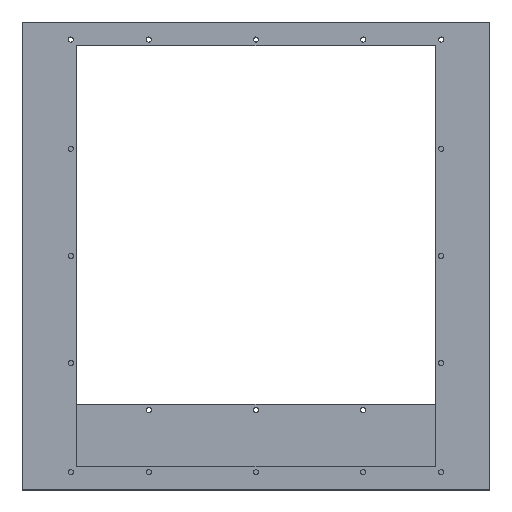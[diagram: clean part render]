
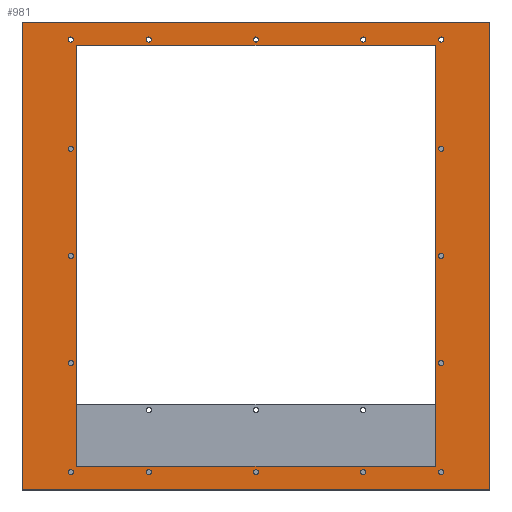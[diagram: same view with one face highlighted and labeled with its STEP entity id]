
A CAD part, top view. The second image highlights one B-rep face of the part: STEP entity #981.
In plain terms, the highlighted planar face has unit normal (0, 0, 1).
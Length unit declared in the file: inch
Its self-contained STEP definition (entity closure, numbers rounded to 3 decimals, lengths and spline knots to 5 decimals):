
#39=VECTOR('',#1232,1.);
#41=VECTOR('',#1235,1.);
#42=VECTOR('',#1236,1.);
#43=VECTOR('',#1237,1.);
#44=VECTOR('',#1238,1.);
#45=VECTOR('',#1239,1.);
#46=VECTOR('',#1240,1.);
#47=VECTOR('',#1241,1.);
#85=LINE('',#1480,#39);
#87=LINE('',#1484,#41);
#88=LINE('',#1487,#42);
#89=LINE('',#1489,#43);
#90=LINE('',#1491,#44);
#91=LINE('',#1492,#45);
#92=LINE('',#1494,#46);
#93=LINE('',#1496,#47);
#130=PLANE('',#1066);
#147=VERTEX_POINT('',#1398);
#149=VERTEX_POINT('',#1403);
#151=VERTEX_POINT('',#1408);
#153=VERTEX_POINT('',#1413);
#155=VERTEX_POINT('',#1418);
#157=VERTEX_POINT('',#1423);
#159=VERTEX_POINT('',#1428);
#161=VERTEX_POINT('',#1433);
#163=VERTEX_POINT('',#1438);
#165=VERTEX_POINT('',#1443);
#167=VERTEX_POINT('',#1448);
#169=VERTEX_POINT('',#1453);
#171=VERTEX_POINT('',#1458);
#173=VERTEX_POINT('',#1463);
#175=VERTEX_POINT('',#1468);
#177=VERTEX_POINT('',#1473);
#180=VERTEX_POINT('',#1479);
#181=VERTEX_POINT('',#1481);
#182=VERTEX_POINT('',#1485);
#183=VERTEX_POINT('',#1486);
#184=VERTEX_POINT('',#1488);
#185=VERTEX_POINT('',#1490);
#186=VERTEX_POINT('',#1493);
#187=VERTEX_POINT('',#1495);
#245=CIRCLE('',#1019,0.082);
#247=CIRCLE('',#1022,0.082);
#249=CIRCLE('',#1025,0.082);
#251=CIRCLE('',#1028,0.082);
#253=CIRCLE('',#1031,0.082);
#255=CIRCLE('',#1034,0.082);
#257=CIRCLE('',#1037,0.082);
#259=CIRCLE('',#1040,0.082);
#261=CIRCLE('',#1043,0.082);
#263=CIRCLE('',#1046,0.082);
#265=CIRCLE('',#1049,0.082);
#267=CIRCLE('',#1052,0.082);
#269=CIRCLE('',#1055,0.082);
#271=CIRCLE('',#1058,0.082);
#273=CIRCLE('',#1061,0.082);
#275=CIRCLE('',#1064,0.082);
#311=EDGE_CURVE('',#147,#147,#245,.T.);
#313=EDGE_CURVE('',#149,#149,#247,.T.);
#315=EDGE_CURVE('',#151,#151,#249,.T.);
#317=EDGE_CURVE('',#153,#153,#251,.T.);
#319=EDGE_CURVE('',#155,#155,#253,.T.);
#321=EDGE_CURVE('',#157,#157,#255,.T.);
#323=EDGE_CURVE('',#159,#159,#257,.T.);
#325=EDGE_CURVE('',#161,#161,#259,.T.);
#327=EDGE_CURVE('',#163,#163,#261,.T.);
#329=EDGE_CURVE('',#165,#165,#263,.T.);
#331=EDGE_CURVE('',#167,#167,#265,.T.);
#333=EDGE_CURVE('',#169,#169,#267,.T.);
#335=EDGE_CURVE('',#171,#171,#269,.T.);
#337=EDGE_CURVE('',#173,#173,#271,.T.);
#339=EDGE_CURVE('',#175,#175,#273,.T.);
#341=EDGE_CURVE('',#177,#177,#275,.T.);
#344=EDGE_CURVE('',#181,#180,#85,.T.);
#346=EDGE_CURVE('',#182,#183,#87,.T.);
#347=EDGE_CURVE('',#184,#182,#88,.T.);
#348=EDGE_CURVE('',#185,#184,#89,.T.);
#349=EDGE_CURVE('',#183,#185,#90,.T.);
#350=EDGE_CURVE('',#186,#181,#91,.T.);
#351=EDGE_CURVE('',#180,#187,#92,.T.);
#352=EDGE_CURVE('',#187,#186,#93,.T.);
#460=ORIENTED_EDGE('',*,*,#311,.T.);
#461=ORIENTED_EDGE('',*,*,#313,.T.);
#462=ORIENTED_EDGE('',*,*,#315,.T.);
#463=ORIENTED_EDGE('',*,*,#317,.T.);
#464=ORIENTED_EDGE('',*,*,#319,.T.);
#465=ORIENTED_EDGE('',*,*,#321,.T.);
#466=ORIENTED_EDGE('',*,*,#323,.T.);
#467=ORIENTED_EDGE('',*,*,#325,.T.);
#468=ORIENTED_EDGE('',*,*,#327,.T.);
#469=ORIENTED_EDGE('',*,*,#329,.T.);
#470=ORIENTED_EDGE('',*,*,#331,.T.);
#471=ORIENTED_EDGE('',*,*,#333,.T.);
#472=ORIENTED_EDGE('',*,*,#335,.T.);
#473=ORIENTED_EDGE('',*,*,#337,.T.);
#474=ORIENTED_EDGE('',*,*,#339,.T.);
#475=ORIENTED_EDGE('',*,*,#341,.T.);
#476=ORIENTED_EDGE('',*,*,#346,.F.);
#477=ORIENTED_EDGE('',*,*,#347,.F.);
#478=ORIENTED_EDGE('',*,*,#348,.F.);
#479=ORIENTED_EDGE('',*,*,#349,.F.);
#480=ORIENTED_EDGE('',*,*,#350,.T.);
#481=ORIENTED_EDGE('',*,*,#344,.T.);
#482=ORIENTED_EDGE('',*,*,#351,.T.);
#483=ORIENTED_EDGE('',*,*,#352,.T.);
#685=EDGE_LOOP('',(#460));
#686=EDGE_LOOP('',(#461));
#687=EDGE_LOOP('',(#462));
#688=EDGE_LOOP('',(#463));
#689=EDGE_LOOP('',(#464));
#690=EDGE_LOOP('',(#465));
#691=EDGE_LOOP('',(#466));
#692=EDGE_LOOP('',(#467));
#693=EDGE_LOOP('',(#468));
#694=EDGE_LOOP('',(#469));
#695=EDGE_LOOP('',(#470));
#696=EDGE_LOOP('',(#471));
#697=EDGE_LOOP('',(#472));
#698=EDGE_LOOP('',(#473));
#699=EDGE_LOOP('',(#474));
#700=EDGE_LOOP('',(#475));
#701=EDGE_LOOP('',(#476,#477,#478,#479));
#702=EDGE_LOOP('',(#480,#481,#482,#483));
#841=FACE_BOUND('',#685,.T.);
#842=FACE_BOUND('',#686,.T.);
#843=FACE_BOUND('',#687,.T.);
#844=FACE_BOUND('',#688,.T.);
#845=FACE_BOUND('',#689,.T.);
#846=FACE_BOUND('',#690,.T.);
#847=FACE_BOUND('',#691,.T.);
#848=FACE_BOUND('',#692,.T.);
#849=FACE_BOUND('',#693,.T.);
#850=FACE_BOUND('',#694,.T.);
#851=FACE_BOUND('',#695,.T.);
#852=FACE_BOUND('',#696,.T.);
#853=FACE_BOUND('',#697,.T.);
#854=FACE_BOUND('',#698,.T.);
#855=FACE_BOUND('',#699,.T.);
#856=FACE_BOUND('',#700,.T.);
#857=FACE_BOUND('',#701,.T.);
#858=FACE_BOUND('',#702,.T.);
#981=ADVANCED_FACE('',(#841,#842,#843,#844,#845,#846,#847,#848,#849,#850,
#851,#852,#853,#854,#855,#856,#857,#858),#130,.T.);
#1019=AXIS2_PLACEMENT_3D('',#1397,#1137,#1138);
#1022=AXIS2_PLACEMENT_3D('',#1402,#1143,#1144);
#1025=AXIS2_PLACEMENT_3D('',#1407,#1149,#1150);
#1028=AXIS2_PLACEMENT_3D('',#1412,#1155,#1156);
#1031=AXIS2_PLACEMENT_3D('',#1417,#1161,#1162);
#1034=AXIS2_PLACEMENT_3D('',#1422,#1167,#1168);
#1037=AXIS2_PLACEMENT_3D('',#1427,#1173,#1174);
#1040=AXIS2_PLACEMENT_3D('',#1432,#1179,#1180);
#1043=AXIS2_PLACEMENT_3D('',#1437,#1185,#1186);
#1046=AXIS2_PLACEMENT_3D('',#1442,#1191,#1192);
#1049=AXIS2_PLACEMENT_3D('',#1447,#1197,#1198);
#1052=AXIS2_PLACEMENT_3D('',#1452,#1203,#1204);
#1055=AXIS2_PLACEMENT_3D('',#1457,#1209,#1210);
#1058=AXIS2_PLACEMENT_3D('',#1462,#1215,#1216);
#1061=AXIS2_PLACEMENT_3D('',#1467,#1221,#1222);
#1064=AXIS2_PLACEMENT_3D('',#1472,#1227,#1228);
#1066=AXIS2_PLACEMENT_3D('',#1483,#1234,$);
#1137=DIRECTION('',(0.,0.,-1.));
#1138=DIRECTION('',(0.,0.082,0.));
#1143=DIRECTION('',(0.,0.,-1.));
#1144=DIRECTION('',(0.,0.082,0.));
#1149=DIRECTION('',(0.,0.,-1.));
#1150=DIRECTION('',(0.,0.082,0.));
#1155=DIRECTION('',(0.,0.,-1.));
#1156=DIRECTION('',(0.,0.082,0.));
#1161=DIRECTION('',(0.,0.,-1.));
#1162=DIRECTION('',(0.,0.082,0.));
#1167=DIRECTION('',(0.,0.,-1.));
#1168=DIRECTION('',(0.,0.082,0.));
#1173=DIRECTION('',(0.,0.,-1.));
#1174=DIRECTION('',(0.,0.082,0.));
#1179=DIRECTION('',(0.,0.,-1.));
#1180=DIRECTION('',(0.,0.082,0.));
#1185=DIRECTION('',(0.,0.,-1.));
#1186=DIRECTION('',(0.,0.082,0.));
#1191=DIRECTION('',(0.,0.,-1.));
#1192=DIRECTION('',(0.,0.082,0.));
#1197=DIRECTION('',(0.,0.,-1.));
#1198=DIRECTION('',(0.,0.082,0.));
#1203=DIRECTION('',(0.,0.,-1.));
#1204=DIRECTION('',(0.,0.082,0.));
#1209=DIRECTION('',(0.,0.,-1.));
#1210=DIRECTION('',(0.,0.082,0.));
#1215=DIRECTION('',(0.,0.,-1.));
#1216=DIRECTION('',(0.,0.082,0.));
#1221=DIRECTION('',(0.,0.,-1.));
#1222=DIRECTION('',(0.,0.082,0.));
#1227=DIRECTION('',(0.,0.,-1.));
#1228=DIRECTION('',(0.,0.082,0.));
#1232=DIRECTION('',(-1.,0.,0.));
#1234=DIRECTION('',(0.,0.,1.));
#1235=DIRECTION('',(-1.,0.,0.));
#1236=DIRECTION('',(0.,-1.,0.));
#1237=DIRECTION('',(1.,0.,0.));
#1238=DIRECTION('',(0.,1.,0.));
#1239=DIRECTION('',(0.,-1.,0.));
#1240=DIRECTION('',(0.,1.,0.));
#1241=DIRECTION('',(1.,0.,0.));
#1397=CARTESIAN_POINT('',(-5.9375,3.4375,3.5));
#1398=CARTESIAN_POINT('',(-5.9375,3.5195,3.5));
#1402=CARTESIAN_POINT('',(-5.9375,0.,3.5));
#1403=CARTESIAN_POINT('',(-5.9375,0.082,3.5));
#1407=CARTESIAN_POINT('',(-5.9375,-3.4375,3.5));
#1408=CARTESIAN_POINT('',(-5.9375,-3.3555,3.5));
#1412=CARTESIAN_POINT('',(-5.9375,-6.9375,3.5));
#1413=CARTESIAN_POINT('',(-5.9375,-6.8555,3.5));
#1417=CARTESIAN_POINT('',(-3.4375,-6.9375,3.5));
#1418=CARTESIAN_POINT('',(-3.4375,-6.8555,3.5));
#1422=CARTESIAN_POINT('',(0.,-6.9375,3.5));
#1423=CARTESIAN_POINT('',(0.,-6.8555,3.5));
#1427=CARTESIAN_POINT('',(3.4375,-6.9375,3.5));
#1428=CARTESIAN_POINT('',(3.4375,-6.8555,3.5));
#1432=CARTESIAN_POINT('',(5.9375,-6.9375,3.5));
#1433=CARTESIAN_POINT('',(5.9375,-6.8555,3.5));
#1437=CARTESIAN_POINT('',(5.9375,-3.4375,3.5));
#1438=CARTESIAN_POINT('',(5.9375,-3.3555,3.5));
#1442=CARTESIAN_POINT('',(5.9375,0.,3.5));
#1443=CARTESIAN_POINT('',(5.9375,0.082,3.5));
#1447=CARTESIAN_POINT('',(5.9375,3.4375,3.5));
#1448=CARTESIAN_POINT('',(5.9375,3.5195,3.5));
#1452=CARTESIAN_POINT('',(5.9375,6.9375,3.5));
#1453=CARTESIAN_POINT('',(5.9375,7.0195,3.5));
#1457=CARTESIAN_POINT('',(3.4375,6.9375,3.5));
#1458=CARTESIAN_POINT('',(3.4375,7.0195,3.5));
#1462=CARTESIAN_POINT('',(0.,6.9375,3.5));
#1463=CARTESIAN_POINT('',(0.,7.0195,3.5));
#1467=CARTESIAN_POINT('',(-3.4375,6.9375,3.5));
#1468=CARTESIAN_POINT('',(-3.4375,7.0195,3.5));
#1472=CARTESIAN_POINT('',(-5.9375,6.9375,3.5));
#1473=CARTESIAN_POINT('',(-5.9375,7.0195,3.5));
#1479=CARTESIAN_POINT('',(-5.75,-6.75,3.5));
#1480=CARTESIAN_POINT('',(0.,-6.75,3.5));
#1481=CARTESIAN_POINT('',(5.75,-6.75,3.5));
#1483=CARTESIAN_POINT('',(0.,0.,3.5));
#1484=CARTESIAN_POINT('',(-7.5,-7.5,3.5));
#1485=CARTESIAN_POINT('',(7.5,-7.5,3.5));
#1486=CARTESIAN_POINT('',(-7.5,-7.5,3.5));
#1487=CARTESIAN_POINT('',(7.5,-7.5,3.5));
#1488=CARTESIAN_POINT('',(7.5,7.5,3.5));
#1489=CARTESIAN_POINT('',(7.5,7.5,3.5));
#1490=CARTESIAN_POINT('',(-7.5,7.5,3.5));
#1491=CARTESIAN_POINT('',(-7.5,7.5,3.5));
#1492=CARTESIAN_POINT('',(5.75,0.5,3.5));
#1493=CARTESIAN_POINT('',(5.75,6.75,3.5));
#1494=CARTESIAN_POINT('',(-5.75,-2.875,3.5));
#1495=CARTESIAN_POINT('',(-5.75,6.75,3.5));
#1496=CARTESIAN_POINT('',(0.,6.75,3.5));
